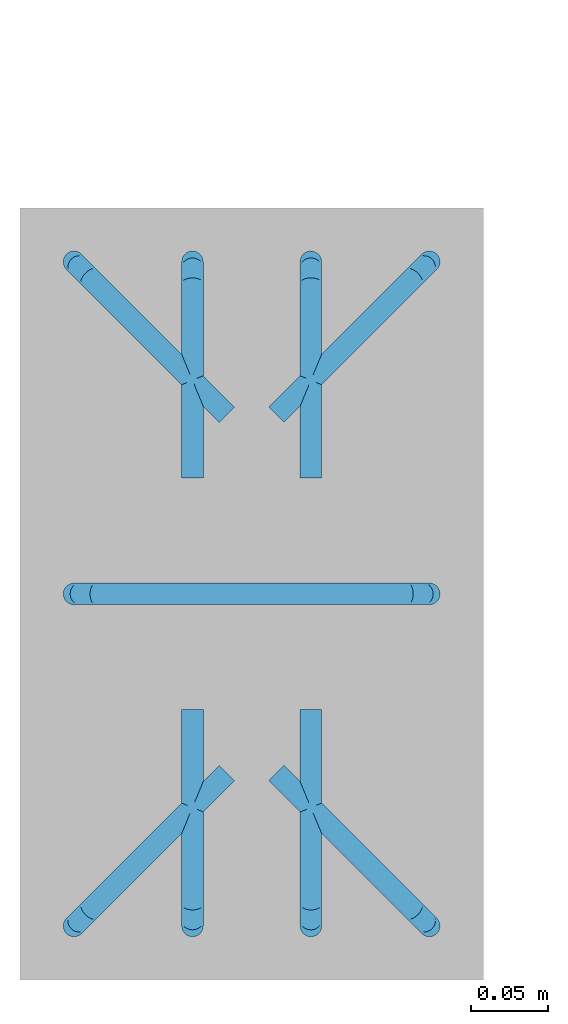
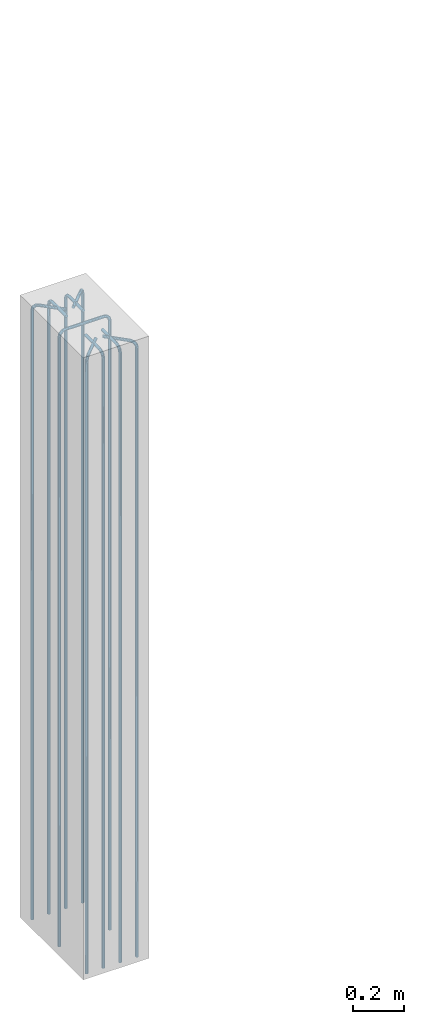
# One storey, part 2 of 11: 1 reinforcing bar.
"""IFC2X3 building model written with IfcOpenShell, lengths in metres."""

from ifc_helpers import new_model, entity, si_unit, direction, frame, origin, place, context, subcontext, project, spatial, shape, source, transform, mapped, element, save


model = new_model("IFC2X3")

# Units and contexts
model_context = context("Model", 3, precision=0.0, world=origin(), true_north=direction((0.0, 1.0)))
plan_context = context("Plan", 3, precision=0.0, world=origin(), true_north=direction((0.0, 1.0)))
body_context = subcontext(model_context, "Body", "Model", "MODEL_VIEW", scale=1.0)
ifc_project = project(units=[si_unit("LENGTHUNIT", "METRE"), si_unit("AREAUNIT", "SQUARE_METRE"), si_unit("VOLUMEUNIT", "CUBIC_METRE"), si_unit("PLANEANGLEUNIT", "RADIAN"), si_unit("THERMODYNAMICTEMPERATUREUNIT", "DEGREE_CELSIUS"), si_unit("FORCEUNIT", "NEWTON"), si_unit("MASSUNIT", "GRAM", prefix="KILO")], contexts=[model_context, plan_context])

# Site, building, storey
placement = place(None, origin())
site = spatial("IfcSite", under=ifc_project, at=placement, Name="Default Site", CompositionType="ELEMENT")
building = spatial("IfcBuilding", under=site, at=placement, Name="Default Building", CompositionType="ELEMENT")
storey_placement = place(placement, frame((0.0, 0.0, 3.0), z_axis=(1.0, 0.0, 0.0), x_axis=(0.0, 0.0, 1.0)))
storey = spatial("IfcBuildingStorey", under=building, at=storey_placement, Name="Piano 1", CompositionType="ELEMENT", Elevation=3.0)

# Reinforcing bar
shared_shape_1 = source(origin(), body_context, None, "AdvancedSweptSolid", [
    entity("IfcSweptDiskSolid", entity("IfcCompositeCurve", [entity("IfcCompositeCurveSegment", "CONTINUOUS", True, entity("IfcPolyline", [entity("IfcCartesianPoint", [0.0, 0.0, 0.0]), entity("IfcCartesianPoint", [0.0, 0.0, 2.937]), entity("IfcCartesianPoint", [0.002653, 0.002653, 2.951]), entity("IfcCartesianPoint", [0.009899, 0.009899, 2.961249]), entity("IfcCartesianPoint", [0.019799, 0.019799, 2.965]), entity("IfcCartesianPoint", [0.098995, 0.098995, 2.965])]))], False), 0.007, 0.0, 0.0),
])
shared_shape_2 = source(origin(), body_context, None, "MappedRepresentation", [mapped(shared_shape_1, transform((-0.115, -0.215, 0.0)))])
shared_shape_3 = source(origin(), body_context, None, "AdvancedSweptSolid", [
    entity("IfcSweptDiskSolid", entity("IfcCompositeCurve", [entity("IfcCompositeCurveSegment", "CONTINUOUS", True, entity("IfcPolyline", [entity("IfcCartesianPoint", [0.0, 0.0, 0.0]), entity("IfcCartesianPoint", [0.0, 0.0, 2.937]), entity("IfcCartesianPoint", [-0.002653, 0.002653, 2.951]), entity("IfcCartesianPoint", [-0.009899, 0.009899, 2.961249]), entity("IfcCartesianPoint", [-0.019799, 0.019799, 2.965]), entity("IfcCartesianPoint", [-0.098995, 0.098995, 2.965])]))], False), 0.007, 0.0, 0.0),
])
shared_shape_4 = source(origin(), body_context, None, "MappedRepresentation", [mapped(shared_shape_3, transform((0.115, -0.215, 0.0)))])
shared_shape_5 = source(origin(), body_context, None, "AdvancedSweptSolid", [
    entity("IfcSweptDiskSolid", entity("IfcCompositeCurve", [entity("IfcCompositeCurveSegment", "CONTINUOUS", True, entity("IfcPolyline", [entity("IfcCartesianPoint", [0.0, 0.0, 0.0]), entity("IfcCartesianPoint", [0.0, 0.0, 2.937]), entity("IfcCartesianPoint", [-0.002653, -0.002653, 2.951]), entity("IfcCartesianPoint", [-0.009899, -0.009899, 2.961249]), entity("IfcCartesianPoint", [-0.019799, -0.019799, 2.965]), entity("IfcCartesianPoint", [-0.098995, -0.098995, 2.965])]))], False), 0.007, 0.0, 0.0),
])
shared_shape_6 = source(origin(), body_context, None, "MappedRepresentation", [mapped(shared_shape_5, transform((0.115, 0.215, 0.0)))])
shared_shape_7 = source(origin(), body_context, None, "AdvancedSweptSolid", [
    entity("IfcSweptDiskSolid", entity("IfcCompositeCurve", [entity("IfcCompositeCurveSegment", "CONTINUOUS", True, entity("IfcPolyline", [entity("IfcCartesianPoint", [0.0, 0.0, 0.0]), entity("IfcCartesianPoint", [0.0, 0.0, 2.937]), entity("IfcCartesianPoint", [0.002653, -0.002653, 2.951]), entity("IfcCartesianPoint", [0.009899, -0.009899, 2.961249]), entity("IfcCartesianPoint", [0.019799, -0.019799, 2.965]), entity("IfcCartesianPoint", [0.098995, -0.098995, 2.965])]))], False), 0.007, 0.0, 0.0),
])
shared_shape_8 = source(origin(), body_context, None, "MappedRepresentation", [mapped(shared_shape_7, transform((-0.115, 0.215, 0.0)))])
shared_shape_9 = source(origin(), body_context, None, "AdvancedSweptSolid", [
    entity("IfcSweptDiskSolid", entity("IfcCompositeCurve", [entity("IfcCompositeCurveSegment", "CONTINUOUS", True, entity("IfcPolyline", [entity("IfcCartesianPoint", [0.0, 0.0, 0.0]), entity("IfcCartesianPoint", [0.0, 0.0, 2.937]), entity("IfcCartesianPoint", [0.0, 0.003751, 2.951]), entity("IfcCartesianPoint", [0.0, 0.014, 2.961249]), entity("IfcCartesianPoint", [0.0, 0.028, 2.965]), entity("IfcCartesianPoint", [0.0, 0.14, 2.965])]))], False), 0.007, 0.0, 0.0),
])
shared_shape_10 = source(origin(), body_context, None, "MappedRepresentation", [mapped(shared_shape_9, transform((-0.038333, -0.215, 0.0)))])
shared_shape_11 = source(origin(), body_context, None, "AdvancedSweptSolid", [
    entity("IfcSweptDiskSolid", entity("IfcCompositeCurve", [entity("IfcCompositeCurveSegment", "CONTINUOUS", True, entity("IfcPolyline", [entity("IfcCartesianPoint", [0.0, 0.0, 0.0]), entity("IfcCartesianPoint", [0.0, 0.0, 2.937]), entity("IfcCartesianPoint", [0.0, 0.003751, 2.951]), entity("IfcCartesianPoint", [0.0, 0.014, 2.961249]), entity("IfcCartesianPoint", [0.0, 0.028, 2.965]), entity("IfcCartesianPoint", [0.0, 0.14, 2.965])]))], False), 0.007, 0.0, 0.0),
])
shared_shape_12 = source(origin(), body_context, None, "MappedRepresentation", [mapped(shared_shape_11, transform((0.038333, -0.215, 0.0)))])
shared_shape_13 = source(origin(), body_context, None, "AdvancedSweptSolid", [
    entity("IfcSweptDiskSolid", entity("IfcCompositeCurve", [entity("IfcCompositeCurveSegment", "CONTINUOUS", True, entity("IfcPolyline", [entity("IfcCartesianPoint", [0.0, 0.0, 0.0]), entity("IfcCartesianPoint", [0.0, 0.0, 2.937]), entity("IfcCartesianPoint", [-0.003751, 0.0, 2.951]), entity("IfcCartesianPoint", [-0.014, 0.0, 2.961249]), entity("IfcCartesianPoint", [-0.028, 0.0, 2.965]), entity("IfcCartesianPoint", [-0.14, 0.0, 2.965])]))], False), 0.007, 0.0, 0.0),
])
shared_shape_14 = source(origin(), body_context, None, "MappedRepresentation", [mapped(shared_shape_13, transform((0.115, 0.0, 0.0)))])
shared_shape_15 = source(origin(), body_context, None, "AdvancedSweptSolid", [
    entity("IfcSweptDiskSolid", entity("IfcCompositeCurve", [entity("IfcCompositeCurveSegment", "CONTINUOUS", True, entity("IfcPolyline", [entity("IfcCartesianPoint", [0.0, 0.0, 0.0]), entity("IfcCartesianPoint", [0.0, 0.0, 2.937]), entity("IfcCartesianPoint", [0.0, -0.003751, 2.951]), entity("IfcCartesianPoint", [0.0, -0.014, 2.961249]), entity("IfcCartesianPoint", [0.0, -0.028, 2.965]), entity("IfcCartesianPoint", [0.0, -0.14, 2.965])]))], False), 0.007, 0.0, 0.0),
])
shared_shape_16 = source(origin(), body_context, None, "MappedRepresentation", [mapped(shared_shape_15, transform((0.038333, 0.215, 0.0)))])
shared_shape_17 = source(origin(), body_context, None, "AdvancedSweptSolid", [
    entity("IfcSweptDiskSolid", entity("IfcCompositeCurve", [entity("IfcCompositeCurveSegment", "CONTINUOUS", True, entity("IfcPolyline", [entity("IfcCartesianPoint", [0.0, 0.0, 0.0]), entity("IfcCartesianPoint", [0.0, 0.0, 2.937]), entity("IfcCartesianPoint", [0.0, -0.003751, 2.951]), entity("IfcCartesianPoint", [0.0, -0.014, 2.961249]), entity("IfcCartesianPoint", [0.0, -0.028, 2.965]), entity("IfcCartesianPoint", [0.0, -0.14, 2.965])]))], False), 0.007, 0.0, 0.0),
])
shared_shape_18 = source(origin(), body_context, None, "MappedRepresentation", [mapped(shared_shape_17, transform((-0.038333, 0.215, 0.0)))])
shared_shape_19 = source(origin(), body_context, None, "AdvancedSweptSolid", [
    entity("IfcSweptDiskSolid", entity("IfcCompositeCurve", [entity("IfcCompositeCurveSegment", "CONTINUOUS", True, entity("IfcPolyline", [entity("IfcCartesianPoint", [0.0, 0.0, 0.0]), entity("IfcCartesianPoint", [0.0, 0.0, 2.937]), entity("IfcCartesianPoint", [0.003751, 0.0, 2.951]), entity("IfcCartesianPoint", [0.014, 0.0, 2.961249]), entity("IfcCartesianPoint", [0.028, 0.0, 2.965]), entity("IfcCartesianPoint", [0.14, 0.0, 2.965])]))], False), 0.007, 0.0, 0.0),
])
shared_shape_20 = source(origin(), body_context, None, "MappedRepresentation", [mapped(shared_shape_19, transform((-0.115, 0.0, 0.0)))])
element("IfcReinforcingBar", 1, at=placement, inside=storey, Name="Arm Principale; Pilastro:1 [Piano:1]", BarLength=30.949853, BarRole="MAIN", BarSurface="TEXTURED", NominalDiameter=0.014, shapes=[
    shape(body_context, None, "MappedRepresentation", [mapped(shared_shape_2, transform((0.0, 0.0, 0.0))), mapped(shared_shape_4, transform((0.0, 0.0, 0.0))), mapped(shared_shape_6, transform((0.0, 0.0, 0.0))), mapped(shared_shape_8, transform((0.0, 0.0, 0.0))), mapped(shared_shape_10, transform((0.0, 0.0, 0.0))), mapped(shared_shape_12, transform((0.0, 0.0, 0.0))), mapped(shared_shape_14, transform((0.0, 0.0, 0.0))), mapped(shared_shape_16, transform((0.0, 0.0, 0.0))), mapped(shared_shape_18, transform((0.0, 0.0, 0.0))), mapped(shared_shape_20, transform((0.0, 0.0, 0.0)))]),
])

save(model, "model.ifc")
